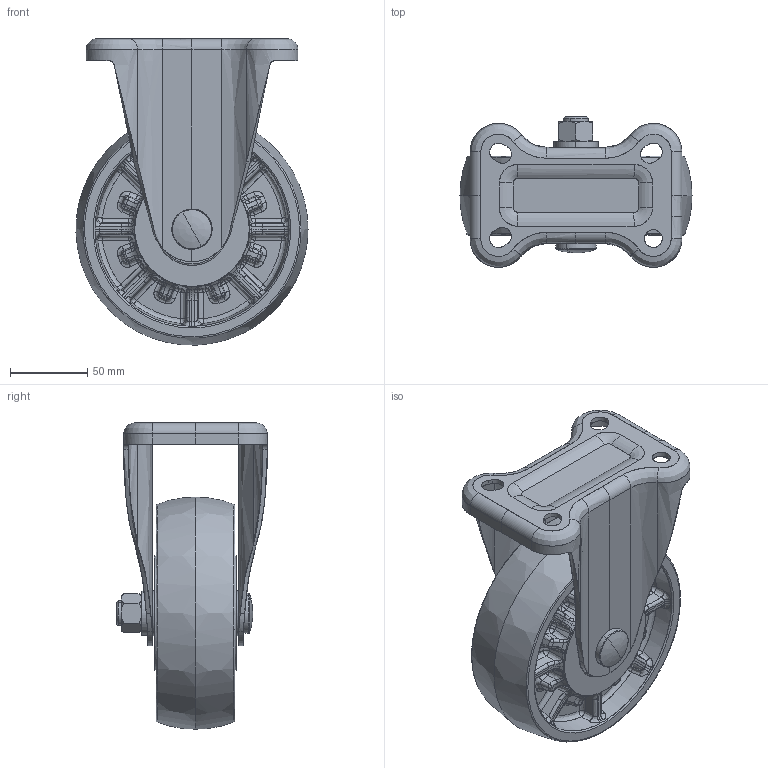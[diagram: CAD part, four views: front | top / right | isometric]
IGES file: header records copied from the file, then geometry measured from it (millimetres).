
Start section: JAMA-IS VERSION  1.0
Global section: file name: E:\tools-models\その他メーカー2\INOAC車輪\7月\ME-150\ME-150WK\ME-150WK_igs.igs; native system: CAM-TOOL; preprocessor: C3out Version 11.1.1.50212 (2015/02/12); author: NONE; organization: NONE; date: 220722.162129; units: millimetre
Bounding box: 149.97 x 97.5 x 197.94 mm (x, y, z)
Surface area: 170171.2 mm2 (no closed solid volume)
Topology: 0 solids, 0 shells, 1325 faces, 13541 edges, 17060 vertices
Faces by surface type: bspline 1325
